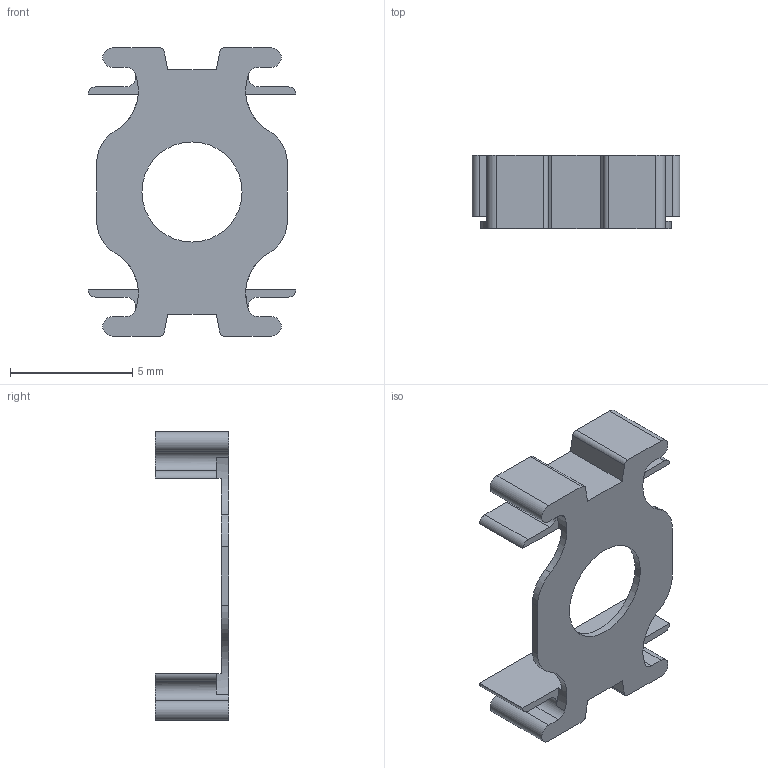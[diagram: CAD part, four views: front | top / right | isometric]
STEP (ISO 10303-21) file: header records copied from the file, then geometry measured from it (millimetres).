
FILE_DESCRIPTION (( 'STEP AP214' ), '1' );
FILE_NAME ('NH-04.STEP', '2014-11-19T08:32:28', ( '' ), ( '' ), 'SwSTEP 2.0', 'SolidWorks 2014', '' );
FILE_SCHEMA (( 'AUTOMOTIVE_DESIGN' ));
Length unit declared in the file: millimetre
Products named in the file (1): NH-04
Bounding box: 8.5 x 3 x 11.8 mm (x, y, z)
Volume: 71 mm3; surface area: 274.8 mm2
Topology: 1 solids, 1 shells, 57 faces, 165 edges, 110 vertices
Faces by surface type: plane 30, cylinder 27
Entity records: 2566 total; most frequent: DIRECTION 343, CARTESIAN_POINT 333, ORIENTED_EDGE 330, EDGE_CURVE 165, AXIS2_PLACEMENT_3D 120, VERTEX_POINT 110, LINE 103, VECTOR 103
